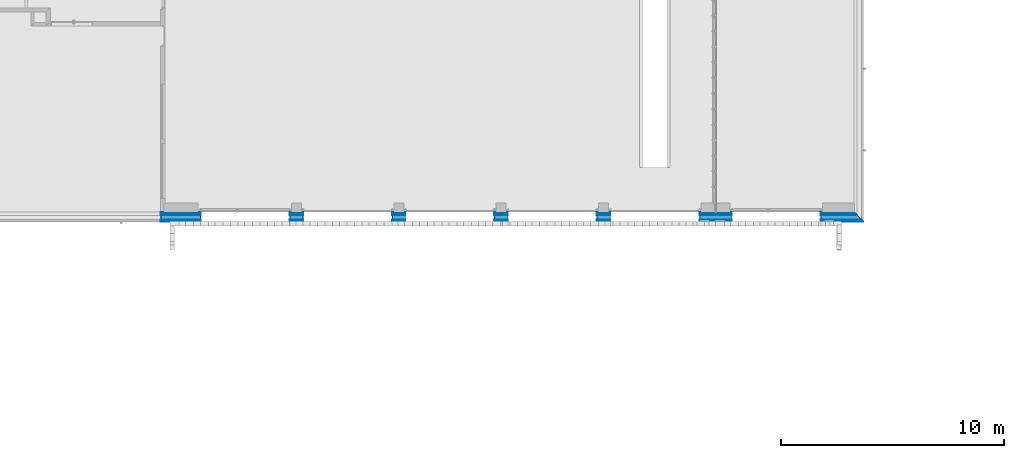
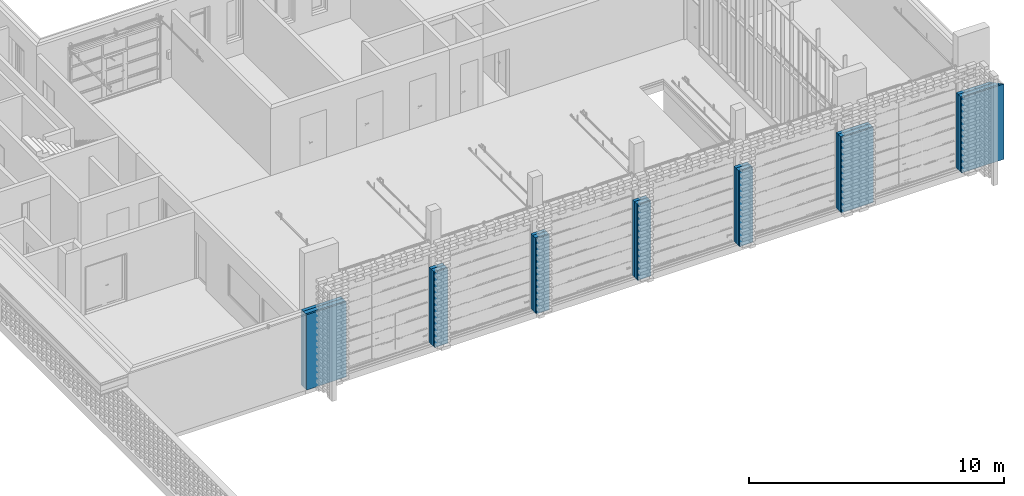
# One storey, part 13 of 62: 3 building element parts, 6 openings, 1 element without a shape of its own.
"""IFC2X3 building model written with IfcOpenShell, lengths in millimetres."""

from ifc_helpers import new_model, entity, si_unit, converted_unit, derived_unit, money_unit, direction, frame, origin_with_axes, place, context, subcontext, project, spatial, polyline, outline, extrude, material, type_object, element, aggregate, save


model = new_model("IFC2X3")

# Units and contexts
model_context = context("Model", 3, precision=0.01, world=origin_with_axes(), true_north=direction((0.0, 1.0)))
body_context = subcontext(model_context, "Body", "Model", "MODEL_VIEW")
ifc_project = project(units=[si_unit("LENGTHUNIT", "METRE", prefix="MILLI"), si_unit("AREAUNIT", "SQUARE_METRE"), si_unit("VOLUMEUNIT", "CUBIC_METRE"), converted_unit("PLANEANGLEUNIT", "DEGREE", entity("IfcPlaneAngleMeasure", 0.0174532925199), si_unit("PLANEANGLEUNIT", "RADIAN"), dimensions=[0, 0, 0, 0, 0, 0, 0]), si_unit("SOLIDANGLEUNIT", "STERADIAN"), money_unit("EUR"), converted_unit("TIMEUNIT", "Year", entity("IfcTimeMeasure", 31556926.0), si_unit("TIMEUNIT", "SECOND"), dimensions=[0, 0, 1, 0, 0, 0, 0]), si_unit("MASSUNIT", "GRAM", prefix="KILO"), si_unit("THERMODYNAMICTEMPERATUREUNIT", "DEGREE_CELSIUS"), si_unit("LUMINOUSINTENSITYUNIT", "LUMEN"), si_unit("ENERGYUNIT", "JOULE", prefix="MEGA"), derived_unit("THERMALCONDUCTANCEUNIT", [(si_unit("POWERUNIT", "WATT"), 1), (si_unit("LENGTHUNIT", "METRE"), -1), (si_unit("THERMODYNAMICTEMPERATUREUNIT", "KELVIN"), -1)]), derived_unit("SPECIFICHEATCAPACITYUNIT", [(si_unit("ENERGYUNIT", "JOULE"), 1), (si_unit("MASSUNIT", "GRAM", prefix="KILO"), -1), (si_unit("THERMODYNAMICTEMPERATUREUNIT", "KELVIN"), -1)]), derived_unit("MASSDENSITYUNIT", [(si_unit("MASSUNIT", "GRAM", prefix="KILO"), 1), (si_unit("VOLUMEUNIT", "CUBIC_METRE"), -1)])], contexts=[model_context])

# Site, building, storey
site_placement = place(None, origin_with_axes())
site = spatial("IfcSite", under=ifc_project, at=site_placement, Name="KIRDE 14, ELVA", CompositionType="ELEMENT")
building_placement = place(site_placement, origin_with_axes())
building = spatial("IfcBuilding", under=site, at=building_placement, Name="PPA ja Päästeameti ühishoone", CompositionType="ELEMENT")
storey_placement = place(building_placement, origin_with_axes())
storey = spatial("IfcBuildingStorey", under=building, at=storey_placement, Name="Esimene korrus", CompositionType="ELEMENT", Elevation=0.0)

# Wall, openings, building element parts
wall_type = type_object("IfcWallType", Name="VS-01 430", PredefinedType="NOTDEFINED")
wall_placement = place(storey_placement, frame((40044.7048908, -9.61299519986e-05, 0.0), z_axis=(0.0, 0.0, 1.0), x_axis=(-1.0, -3.58836951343e-10, 0.0)))
wall = element("IfcWall", 1, at=wall_placement, inside=storey, type_object=wall_type, Name="VS-01")
opening_1_placement = place(wall_placement, frame((22744.5321552, 0.0, 0.0), z_axis=(0.0, 0.0, 1.0), x_axis=(1.0, 0.0, 0.0)))
element("IfcOpeningElement", 2, at=opening_1_placement, cuts=wall, Name="GU-01", context=body_context, shape_type="SweptSolid", body=[
    extrude(outline(polyline([(2000.0, 0.0), (2000.0, 4400.0), (-2000.0, 4400.0), (-2000.0, 0.0), (2000.0, 0.0)])), frame((-1.54301460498e-07, -430.0, 0.0), z_axis=(3.58837201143e-10, 1.0, 0.0), x_axis=(-1.0, 3.58837196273e-10, 0.0)), (0.0, 0.0, 1.0), 860.0),
])
opening_2_placement = place(wall_placement, frame((27344.5321552, 0.0, 0.0), z_axis=(0.0, 0.0, 1.0), x_axis=(1.0, 0.0, 0.0)))
element("IfcOpeningElement", 3, at=opening_2_placement, cuts=wall, Name="GU-02", context=body_context, shape_type="SweptSolid", body=[
    extrude(outline(polyline([(2000.0, 0.0), (2000.0, 4400.0), (-2000.0, 4400.0), (-2000.0, 0.0), (2000.0, 0.0)])), frame((-1.54299684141e-07, -430.0, 0.0), z_axis=(3.58837201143e-10, 1.0, 0.0), x_axis=(-1.0, 3.58837196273e-10, 0.0)), (0.0, 0.0, 1.0), 860.0),
])
opening_3_placement = place(wall_placement, frame((3484.10778889, 0.0, 0.0), z_axis=(0.0, 0.0, 1.0), x_axis=(1.0, 0.0, 0.0)))
element("IfcOpeningElement", 4, at=opening_3_placement, cuts=wall, Name="GU-02", context=body_context, shape_type="SweptSolid", body=[
    extrude(outline(polyline([(2000.0, 0.0), (2000.0, 4400.0), (-2000.0, 4400.0), (-2000.0, 0.0), (2000.0, 0.0)])), frame((-1.54301460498e-07, -430.0, 0.0), z_axis=(3.58837201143e-10, 1.0, 0.0), x_axis=(-1.0, 3.58837196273e-10, 0.0)), (0.0, 0.0, 1.0), 860.0),
])
opening_4_placement = place(wall_placement, frame((18144.5321552, 0.0, 0.0), z_axis=(0.0, 0.0, 1.0), x_axis=(1.0, 0.0, 0.0)))
element("IfcOpeningElement", 5, at=opening_4_placement, cuts=wall, Name="GU-01", context=body_context, shape_type="SweptSolid", body=[
    extrude(outline(polyline([(2000.0, 0.0), (2000.0, 4400.0), (-2000.0, 4400.0), (-2000.0, 0.0), (2000.0, 0.0)])), frame((-1.54301460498e-07, -430.0, 0.0), z_axis=(3.58837201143e-10, 1.0, 0.0), x_axis=(-1.0, 3.58837196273e-10, 0.0)), (0.0, 0.0, 1.0), 860.0),
])
opening_5_placement = place(wall_placement, frame((13544.5321552, 0.0, 0.0), z_axis=(0.0, 0.0, 1.0), x_axis=(1.0, 0.0, 0.0)))
element("IfcOpeningElement", 6, at=opening_5_placement, cuts=wall, Name="GU-01", context=body_context, shape_type="SweptSolid", body=[
    extrude(outline(polyline([(2000.0, 0.0), (2000.0, 4400.0), (-2000.0, 4400.0), (-2000.0, 0.0), (2000.0, 0.0)])), frame((-1.54301460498e-07, -430.0, 0.0), z_axis=(3.58837201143e-10, 1.0, 0.0), x_axis=(-1.0, 3.58837196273e-10, 0.0)), (0.0, 0.0, 1.0), 860.0),
])
opening_6_placement = place(wall_placement, frame((8932.53215519, 0.0, 0.0), z_axis=(0.0, 0.0, 1.0), x_axis=(1.0, 0.0, 0.0)))
element("IfcOpeningElement", 7, at=opening_6_placement, cuts=wall, Name="GU-01", context=body_context, shape_type="SweptSolid", body=[
    extrude(outline(polyline([(2000.0, 0.0), (2000.0, 4400.0), (-2000.0, 4400.0), (-2000.0, 0.0), (2000.0, 0.0)])), frame((-1.54301460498e-07, -430.0, 0.0), z_axis=(3.58837201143e-10, 1.0, 0.0), x_axis=(-1.0, 3.58837196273e-10, 0.0)), (0.0, 0.0, 1.0), 860.0),
])
ifc_material_1 = material(Name="Raudbetoon Paneelid (2)")
building_element_part_1_placement = place(wall_placement, origin_with_axes())
building_element_part_1 = element("IfcBuildingElementPart", 8, at=building_element_part_1_placement, material=ifc_material_1, Name="Raudbetoon Paneelid (2)", context=body_context, shape_type="SweptSolid", body=[
    extrude(outline(polyline([(8.38190317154e-06, 0.0), (31144.7047289, 0.0), (31144.7047288, 150.0), (-149.999991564, 150.0), (8.38190317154e-06, 0.0)])), origin_with_axes(), (0.0, 0.0, 1.0), 3600.0),
])
ifc_material_2 = material(Name="Vahtpolüstüreen (4)")
building_element_part_2_placement = place(wall_placement, origin_with_axes())
building_element_part_2 = element("IfcBuildingElementPart", 9, at=building_element_part_2_placement, material=ifc_material_2, Name="Vahtpolüstüreen (4)", context=body_context, shape_type="SweptSolid", body=[
    extrude(outline(polyline([(-149.999991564, 150.0), (31144.7047288, 150.0), (31144.7047288, 350.0), (-349.999991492, 350.0), (-149.999991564, 150.0)])), origin_with_axes(), (0.0, 0.0, 1.0), 3600.0),
])
building_element_part_3_placement = place(wall_placement, origin_with_axes())
building_element_part_3 = element("IfcBuildingElementPart", 10, at=building_element_part_3_placement, material=ifc_material_1, Name="Raudbetoon Paneelid (2)", context=body_context, shape_type="SweptSolid", body=[
    extrude(outline(polyline([(-349.999991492, 350.0), (31144.7047288, 350.0), (31144.7047288, 430.0), (-429.999991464, 430.0), (-349.999991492, 350.0)])), origin_with_axes(), (0.0, 0.0, 1.0), 3600.0),
])
aggregate(wall, [building_element_part_1, building_element_part_2, building_element_part_3])

save(model, "model.ifc")
